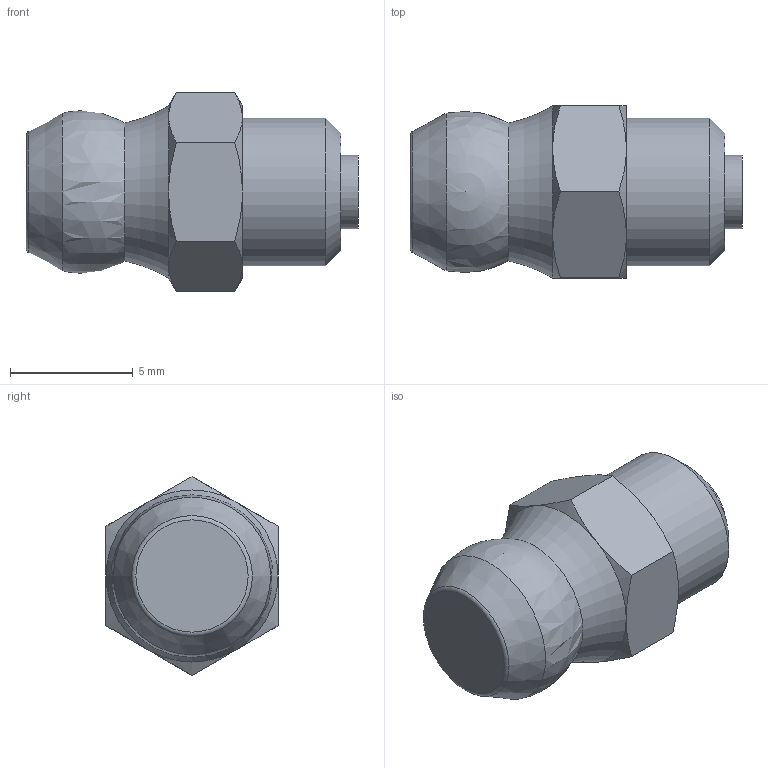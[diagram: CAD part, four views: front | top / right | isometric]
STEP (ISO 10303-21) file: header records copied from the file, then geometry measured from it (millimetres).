
FILE_DESCRIPTION(/* description */ ('윤활 니플, 원추 유형 A'),/* implementation_level */ '2;1');
FILE_NAME(/* name */ '',/* time_stamp */ '2025-06-27T16:35:10+09:00',/* author */ ('jhkim'),/* organization */ (''),/* preprocessor_version */ 'ST-DEVELOPER v20.1',/* originating_system */ 'Autodesk Inventor 2026',/* authorisation */ '');
FILE_SCHEMA (('AUTOMOTIVE_DESIGN { 1 0 10303 214 3 1 1 }'));
Length unit declared in the file: millimetre
Products named in the file (1): 그리스 니플 M6x0.75
Bounding box: 13.5 x 7 x 8.08 mm (x, y, z)
Volume: 412.7 mm3; surface area: 327.4 mm2
Topology: 1 solids, 1 shells, 29 faces, 66 edges, 40 vertices
Faces by surface type: cone 14, plane 10, cylinder 2, torus 2, sphere 1
Full cylindrical faces by diameter (mm): 3 x1, 6 x1
Entity records: 823 total; most frequent: CARTESIAN_POINT 182, DIRECTION 130, ORIENTED_EDGE 128, EDGE_CURVE 64, AXIS2_PLACEMENT_3D 60, VERTEX_POINT 40, EDGE_LOOP 32, CIRCLE 30
